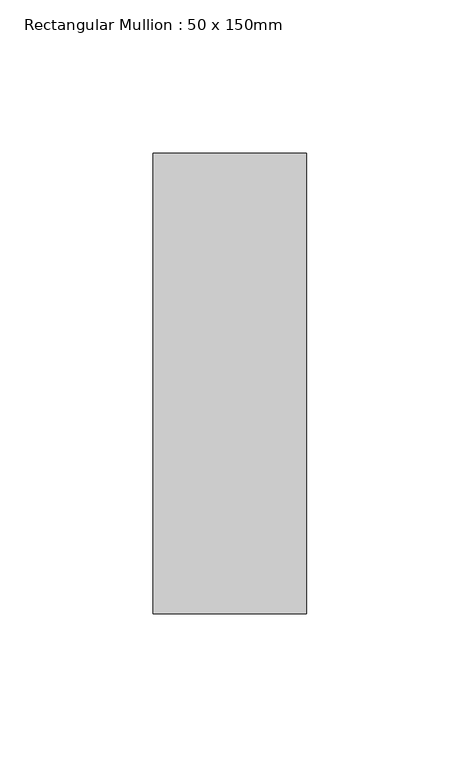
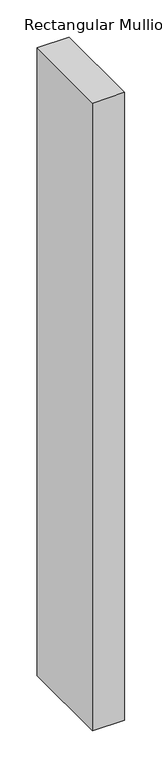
"""IFC4 building model written with IfcOpenShell, lengths in millimetres: member geometry, Rectangular Mullion : 50 x 150mm."""

import ifcopenshell
import ifcopenshell.guid

model = None  # the IFC model being written
_history = None  # IfcOwnerHistory: only IFC2X3 demands one
_inside = {}  # id of a spatial element -> (the spatial element, [elements in it])
_under = {}  # id of a project, library or spatial element -> (it, [spatial elements below it])
_declared = {}  # id of a project -> (the project, [libraries it declares])
_typed = {}  # id of a type object -> (the type object, [elements of that type])
_made_of = {}  # id of a material, layer set ... -> (it, [elements and type objects made of it])


def new_model(schema):
    """Start an empty IFC model of exactly this schema.

    Asked for "IFC4X3", IfcOpenShell would pick the latest addendum, in which some entities
    have other attributes; the version numbers below select the first issue.
    IFC2X3 requires an IfcOwnerHistory on every rooted entity: one is made here for all.
    """
    global model, _history
    if schema == "IFC4X3":
        model = ifcopenshell.file(schema_version=(4, 3, 0, 0))
    else:
        model = ifcopenshell.file(schema=schema)
    _inside.clear()
    _under.clear()
    _declared.clear()
    _typed.clear()
    _made_of.clear()
    _history = None
    if model.schema == "IFC2X3":
        org = make("IfcOrganization", Name="unknown")
        user = make(
            "IfcPersonAndOrganization",
            ThePerson=make("IfcPerson", FamilyName="unknown"),
            TheOrganization=org,
        )
        app = make(
            "IfcApplication",
            ApplicationDeveloper=org,
            Version="unknown",
            ApplicationFullName="unknown",
            ApplicationIdentifier="unknown",
        )
        _history = make(
            "IfcOwnerHistory",
            OwningUser=user,
            OwningApplication=app,
            ChangeAction="ADDED",
            CreationDate=0,
        )
    return model


def make(cls, **values):
    """One entity of the class cls with the attributes given. An attribute that is None is left unset."""
    return model.create_entity(
        cls, **{name: value for name, value in values.items() if value is not None}
    )


def rooted(cls, **values):
    """An entity with a GlobalId (a new one), such as an element, a storey or a relation."""
    return make(cls, GlobalId=ifcopenshell.guid.new(), OwnerHistory=_history, **values)


def si_unit(unit_type, name, prefix=None):
    """IfcSIUnit, for example si_unit("LENGTHUNIT", "METRE", prefix="MILLI")."""
    return make("IfcSIUnit", UnitType=unit_type, Prefix=prefix, Name=name)


def assignment(units):
    """IfcUnitAssignment: the units of a project."""
    return None if units is None else make("IfcUnitAssignment", Units=units)


def point(xyz):
    """IfcCartesianPoint."""
    return None if xyz is None else make("IfcCartesianPoint", Coordinates=xyz)


def direction(xyz):
    """IfcDirection."""
    return None if xyz is None else make("IfcDirection", DirectionRatios=xyz)


def frame(location, z_axis=None, x_axis=None):
    """IfcAxis2Placement3D, a coordinate frame: its origin and axes. An axis left out is left unset."""
    return make(
        "IfcAxis2Placement3D",
        Location=point(location),
        Axis=direction(z_axis),
        RefDirection=direction(x_axis),
    )


def origin():
    """The frame at (0, 0, 0) with its axes left unset."""
    return frame((0.0, 0.0, 0.0))


def place(relative_to, where):
    """IfcLocalPlacement: puts the frame where relative to a parent placement (None: the world)."""
    return make(
        "IfcLocalPlacement", PlacementRelTo=relative_to, RelativePlacement=where
    )


def context(
    kind, dimensions, precision=None, world=None, true_north=None, identifier=None
):
    """IfcGeometricRepresentationContext, for example the 3D "Model" context."""
    return make(
        "IfcGeometricRepresentationContext",
        ContextIdentifier=identifier,
        ContextType=kind,
        CoordinateSpaceDimension=dimensions,
        Precision=precision,
        WorldCoordinateSystem=world,
        TrueNorth=true_north,
    )


def project(units=None, contexts=None):
    """IfcProject with its units and contexts."""
    return rooted(
        "IfcProject",
        Name="project",
        RepresentationContexts=contexts,
        UnitsInContext=assignment(units),
    )


def spatial(cls, under=None, at=None, **own):
    """A site, building, storey or space (cls), placed at a placement, below another one or the project."""
    s = rooted(cls, ObjectPlacement=at, **own)
    if under is not None:
        _under.setdefault(under.id(), (under, []))[1].append(s)
    return s


def polyline(points):
    """IfcPolyline through the points."""
    return make("IfcPolyline", Points=[point(p) for p in points])


def outline(outer, holes=None, kind="AREA"):
    """IfcArbitraryClosedProfileDef: a profile drawn as a closed curve; with holes, ...WithVoids."""
    if holes is None:
        return make("IfcArbitraryClosedProfileDef", ProfileType=kind, OuterCurve=outer)
    return make(
        "IfcArbitraryProfileDefWithVoids",
        ProfileType=kind,
        OuterCurve=outer,
        InnerCurves=holes,
    )


def extrude(swept, where, along, depth):
    """IfcExtrudedAreaSolid: the profile swept, set in the frame where, extruded along a direction by depth."""
    return make(
        "IfcExtrudedAreaSolid",
        SweptArea=swept,
        Position=where,
        ExtrudedDirection=direction(along),
        Depth=depth,
    )


def shape(context_of_items, identifier, shape_type, items):
    """IfcShapeRepresentation: the items that make up one representation, for example the "Body"."""
    return make(
        "IfcShapeRepresentation",
        ContextOfItems=context_of_items,
        RepresentationIdentifier=identifier,
        RepresentationType=shape_type,
        Items=items,
    )


def source(mapping_origin, context_of_items, identifier, shape_type, items):
    """IfcRepresentationMap: a shape defined once, which mapped items show again and again."""
    return make(
        "IfcRepresentationMap",
        MappingOrigin=mapping_origin,
        MappedRepresentation=shape(context_of_items, identifier, shape_type, items),
    )


def transform(
    local_origin,
    x_axis=None,
    y_axis=None,
    z_axis=None,
    scale=None,
    scale2=None,
    scale3=None,
    uniform=True,
):
    """IfcCartesianTransformationOperator3D, or its non-uniform kind. x_axis, y_axis, z_axis: its Axis1, 2, 3."""
    if uniform:
        return make(
            "IfcCartesianTransformationOperator3D",
            Axis1=direction(x_axis),
            Axis2=direction(y_axis),
            LocalOrigin=point(local_origin),
            Scale=scale,
            Axis3=direction(z_axis),
        )
    return make(
        "IfcCartesianTransformationOperator3DnonUniform",
        Axis1=direction(x_axis),
        Axis2=direction(y_axis),
        LocalOrigin=point(local_origin),
        Scale=scale,
        Axis3=direction(z_axis),
        Scale2=scale2,
        Scale3=scale3,
    )


def mapped(mapping_source, mapping_target):
    """IfcMappedItem: shows the shape of a source again, moved by a transform."""
    return make(
        "IfcMappedItem", MappingSource=mapping_source, MappingTarget=mapping_target
    )


def made_of(thing, what):
    """Note that an element or type object is made of a material, layer set ...; save() writes the relation."""
    if what is not None:
        _made_of.setdefault(what.id(), (what, []))[1].append(thing)
    return thing


def element(
    cls,
    number,
    at=None,
    inside=None,
    cuts=None,
    type_object=None,
    material=None,
    context=None,
    identifier="Body",
    shape_type=None,
    held_by="IfcProductDefinitionShape",
    body=None,
    shapes=None,
    **own,
):
    """One element of the class cls, such as IfcWall. Its Tag is "e" and its number.

    at: its placement. inside: the storey or other place that contains it. cuts: it is an
    opening in that element (IfcRelVoidsElement). A single representation is given by context,
    identifier, shape_type and body (its items); several are given by shapes. held_by: the class
    of the entity that holds the representations. save() writes the other relations.
    """
    e = rooted(cls, Tag="e%d" % number, ObjectPlacement=at, **own)
    if body is not None:
        shapes = [shape(context, identifier, shape_type, body)]
    if shapes is not None:
        e.Representation = make(held_by, Representations=shapes)
    if inside is not None:
        _inside.setdefault(inside.id(), (inside, []))[1].append(e)
    if cuts is not None:
        rooted(
            "IfcRelVoidsElement", RelatingBuildingElement=cuts, RelatedOpeningElement=e
        )
    if type_object is not None:
        _typed.setdefault(type_object.id(), (type_object, []))[1].append(e)
    return made_of(e, material)


def aggregate(whole, parts):
    """IfcRelAggregates: a whole, such as a stair, and the parts it consists of."""
    return rooted("IfcRelAggregates", RelatingObject=whole, RelatedObjects=parts)


def save(model, path):
    """Write the relations noted so far, then the file.

    IfcRelAggregates (storeys below a building ...), IfcRelContainedInSpatialStructure (elements
    in a storey), IfcRelDefinesByType, IfcRelAssociatesMaterial and IfcRelDeclares: one each for
    every whole, place, type object, material and project.
    """
    for whole, parts in _under.values():
        aggregate(whole, parts)
    for where, things in _inside.values():
        rooted(
            "IfcRelContainedInSpatialStructure",
            RelatedElements=things,
            RelatingStructure=where,
        )
    for kind, things in _typed.values():
        rooted("IfcRelDefinesByType", RelatedObjects=things, RelatingType=kind)
    for what, things in _made_of.values():
        rooted("IfcRelAssociatesMaterial", RelatedObjects=things, RelatingMaterial=what)
    for by, libraries in _declared.values():
        rooted("IfcRelDeclares", RelatingContext=by, RelatedDefinitions=libraries)
    model.write(path)


def rectangular_mullion_50_x_150mm_268284f3(model_context):
    return source(origin(), model_context, "Body", "SweptSolid", [
        extrude(outline(polyline([(0.0, 75.0), (0.0, -75.0), (-50.0, -75.0), (-50.0, 75.0), (0.0, 75.0)])), frame((0.0, 0.0, -1032.5), z_axis=(0.0, 0.0, 1.0), x_axis=(1.0, 0.0, 0.0)), (0.0, 0.0, 1.0), 1032.5),
    ])


if __name__ == "__main__":
    model = new_model("IFC4")
    model_context = context("Model", 3, world=origin())
    ifc_project = project(units=[si_unit("LENGTHUNIT", "METRE", prefix="MILLI")], contexts=[model_context])
    site = spatial("IfcSite", under=ifc_project)
    building = spatial("IfcBuilding", under=site)
    placement = place(None, origin())
    rectangular_mullion_50_x_150mm_shape = rectangular_mullion_50_x_150mm_268284f3(model_context)
    element("IfcMember", 1, ObjectType="Rectangular Mullion : 50 x 150mm", at=placement, inside=building, context=model_context, shape_type="MappedRepresentation", body=[
        mapped(rectangular_mullion_50_x_150mm_shape, transform((0.0, 0.0, 0.0), x_axis=(1.0, 0.0, 0.0), y_axis=(0.0, 1.0, 0.0), z_axis=(0.0, 0.0, 1.0))),
    ])
    save(model, "model.ifc")
